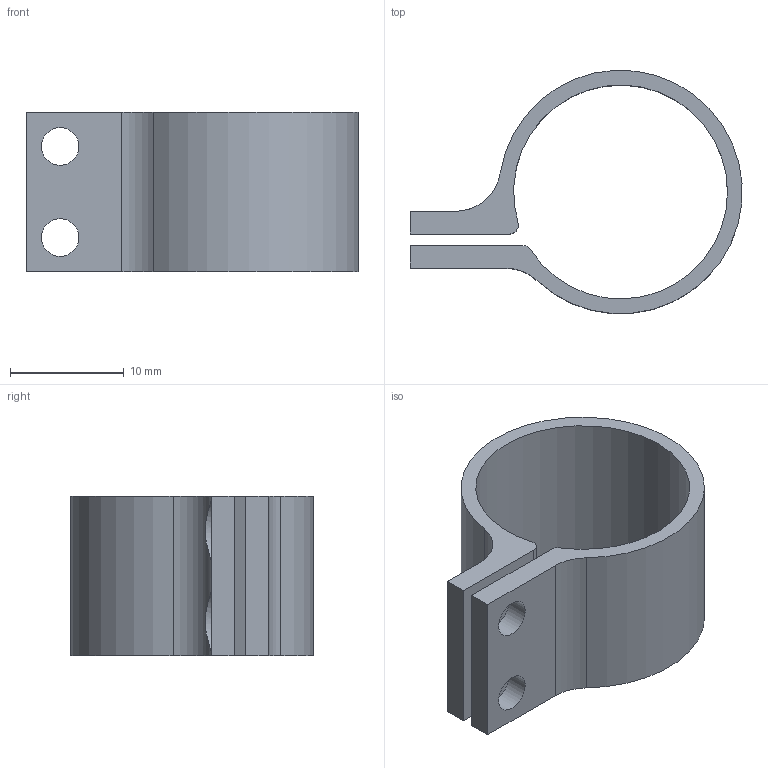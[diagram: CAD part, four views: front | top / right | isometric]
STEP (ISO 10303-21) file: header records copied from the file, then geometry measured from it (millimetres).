
FILE_DESCRIPTION(/* description */ (''),/* implementation_level */ '2;1');
FILE_NAME(/* name */ 'C:\Users\uhlma\OneDrive\Flaura\Produktentwicklung\Gehaeuse\CAD-Konstruktion\Prototyp 9\Thingiverse_Upload\Inventor\Battery_Mount.stp',/* time_stamp */ '2021-07-25T11:46:08+02:00',/* author */ ('uhlma'),/* organization */ (''),/* preprocessor_version */ 'ST-DEVELOPER v18',/* originating_system */ 'Autodesk Inventor 2020',/* authorisation */ '');
FILE_SCHEMA (('AUTOMOTIVE_DESIGN { 1 0 10303 214 3 1 1 }'));
Length unit declared in the file: millimetre
Products named in the file (1): Halterung_Akku_210403
Bounding box: 29.17 x 21.36 x 14 mm (x, y, z)
Volume: 1594.5 mm3; surface area: 2485.3 mm2
Topology: 1 solids, 1 shells, 20 faces, 56 edges, 38 vertices
Faces by surface type: cylinder 12, plane 8
Full cylindrical faces by diameter (mm): 3.3 x4
Entity records: 747 total; most frequent: CARTESIAN_POINT 149, DIRECTION 120, ORIENTED_EDGE 112, EDGE_CURVE 56, AXIS2_PLACEMENT_3D 45, VERTEX_POINT 38, LINE 30, VECTOR 30
